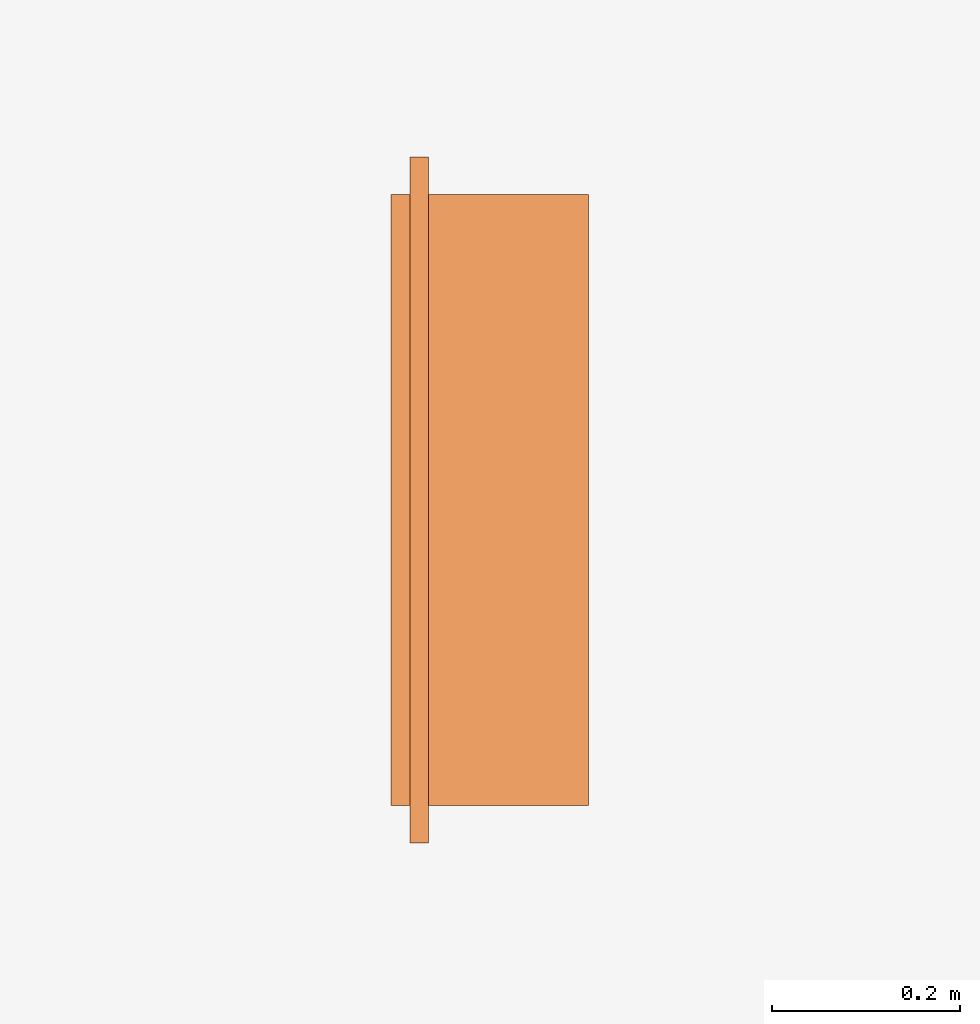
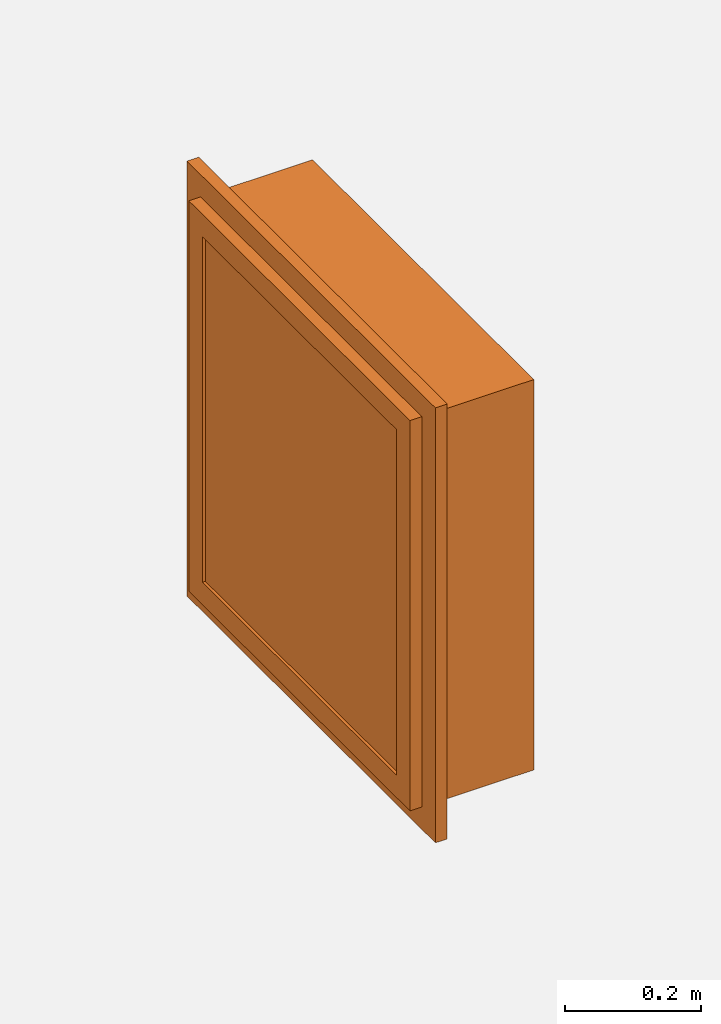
# One storey, part 2 of 2: 1 proxy.
"""IFC2X3 building model written with IfcOpenShell, lengths in millimetres."""

from ifc_helpers import new_model, entity, si_unit, converted_unit, derived_unit, money_unit, direction, frame, origin_with_axes, place, context, subcontext, project, spatial, faceted_brep, type_object, element, save


model = new_model("IFC2X3")

# Units and contexts
model_context = context("Model", 3, precision=0.01, world=origin_with_axes(), true_north=direction((0.0, 1.0)))
body_context = subcontext(model_context, "Body", "Model", "MODEL_VIEW")
ifc_project = project(units=[si_unit("LENGTHUNIT", "METRE", prefix="MILLI"), si_unit("AREAUNIT", "SQUARE_METRE"), si_unit("VOLUMEUNIT", "CUBIC_METRE"), converted_unit("PLANEANGLEUNIT", "DEGREE", entity("IfcPlaneAngleMeasure", 0.0174532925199), si_unit("PLANEANGLEUNIT", "RADIAN"), dimensions=[0, 0, 0, 0, 0, 0, 0]), money_unit("USD"), converted_unit("TIMEUNIT", "Year", entity("IfcTimeMeasure", 31556926.0), si_unit("TIMEUNIT", "SECOND"), dimensions=[0, 0, 1, 0, 0, 0, 0]), si_unit("MASSUNIT", "GRAM", prefix="KILO"), si_unit("THERMODYNAMICTEMPERATUREUNIT", "DEGREE_CELSIUS"), si_unit("LUMINOUSINTENSITYUNIT", "LUMEN"), si_unit("ENERGYUNIT", "JOULE", prefix="MEGA"), derived_unit("THERMALCONDUCTANCEUNIT", [(si_unit("POWERUNIT", "WATT"), 1), (si_unit("LENGTHUNIT", "METRE"), -1), (si_unit("THERMODYNAMICTEMPERATUREUNIT", "KELVIN"), -1)]), derived_unit("SPECIFICHEATCAPACITYUNIT", [(si_unit("ENERGYUNIT", "JOULE"), 1), (si_unit("MASSUNIT", "GRAM", prefix="KILO"), -1), (si_unit("THERMODYNAMICTEMPERATUREUNIT", "KELVIN"), -1)]), derived_unit("MASSDENSITYUNIT", [(si_unit("MASSUNIT", "GRAM", prefix="KILO"), 1), (si_unit("VOLUMEUNIT", "CUBIC_METRE"), -1)])], contexts=[model_context])

# Site, building, storey
site_placement = place(None, frame((9669.71692459, 4224.13032188, 0.0), z_axis=(0.0, 0.0, 1.0), x_axis=(1.0, 0.0, 0.0)))
site = spatial("IfcSite", under=ifc_project, at=site_placement, Name="Exteriér", CompositionType="ELEMENT")
building_placement = place(site_placement, origin_with_axes())
building = spatial("IfcBuilding", under=site, at=building_placement, Name="Budova", CompositionType="ELEMENT")
storey_placement = place(building_placement, frame((0.0, 0.0, -3100.0), z_axis=(0.0, 0.0, 1.0), x_axis=(1.0, 0.0, 0.0)))
storey = spatial("IfcBuildingStorey", under=building, at=storey_placement, Name="1.PP", CompositionType="ELEMENT", Elevation=-3100.0)

# Proxy
building_element_proxy_type = type_object("IfcBuildingElementProxyType", Name="Nástěnný hydrant 25", PredefinedType="NOTDEFINED")
proxy_placement = place(storey_placement, frame((7336.48806068, 12589.164995, 1100.0), z_axis=(0.0, 0.0, 1.0), x_axis=(0.0, -1.0, 0.0)))
element("IfcBuildingElementProxy", 1, at=proxy_placement, inside=storey, type_object=building_element_proxy_type, Name="Ž01", context=body_context, shape_type="Brep", body=[
    faceted_brep([(0.0, 40.0, 0.0), (0.0, 20.0, 0.0), (-730.0, 20.0, 0.0), (-730.0, 40.0, 0.0), (0.0, 40.0, 780.0), (0.0, 20.0, 780.0), (-730.0, 20.0, 780.0), (-60.0, 20.0, 60.0), (-670.0, 20.0, 60.0), (-670.0, 20.0, 720.0), (-60.0, 20.0, 720.0), (-730.0, 40.0, 780.0), (-60.0, 40.0, 60.0), (-60.0, 40.0, 720.0), (-670.0, 40.0, 720.0), (-670.0, 40.0, 60.0)], [[[0, 1, 2, 3]], [[4, 5, 1, 0]], [[1, 5, 6, 2], [7, 8, 9, 10]], [[3, 2, 6, 11]], [[0, 3, 11, 4], [12, 13, 14, 15]], [[11, 6, 5, 4]], [[15, 8, 7, 12]], [[14, 9, 8, 15]], [[13, 10, 9, 14]], [[12, 7, 10, 13]]]),
    faceted_brep([(-40.0, 20.0, 40.0), (-40.0, 0.0, 40.0), (-690.0, 0.0, 40.0), (-690.0, 20.0, 40.0), (-40.0, 20.0, 740.0), (-40.0, 0.0, 740.0), (-690.0, 0.0, 740.0), (-80.0, 0.0, 80.0), (-650.0, 0.0, 80.0), (-650.0, 0.0, 700.0), (-80.0, 0.0, 700.0), (-690.0, 20.0, 740.0), (-80.0, 20.0, 80.0), (-80.0, 20.0, 700.0), (-650.0, 20.0, 700.0), (-650.0, 20.0, 80.0)], [[[0, 1, 2, 3]], [[4, 5, 1, 0]], [[1, 5, 6, 2], [7, 8, 9, 10]], [[3, 2, 6, 11]], [[0, 3, 11, 4], [12, 13, 14, 15]], [[11, 6, 5, 4]], [[15, 8, 7, 12]], [[14, 9, 8, 15]], [[13, 10, 9, 14]], [[12, 7, 10, 13]]]),
    faceted_brep([(-40.0, 190.0, 40.0), (-40.0, 40.0, 40.0), (-690.0, 40.0, 40.0), (-690.0, 190.0, 40.0), (-40.0, 190.0, 740.0), (-40.0, 40.0, 740.0), (-690.0, 40.0, 740.0), (-60.0, 40.0, 60.0), (-670.0, 40.0, 60.0), (-670.0, 40.0, 720.0), (-60.0, 40.0, 720.0), (-690.0, 190.0, 740.0), (-60.0, 190.0, 60.0), (-60.0, 190.0, 720.0), (-670.0, 190.0, 720.0), (-670.0, 190.0, 60.0)], [[[0, 1, 2, 3]], [[4, 5, 1, 0]], [[1, 5, 6, 2], [7, 8, 9, 10]], [[3, 2, 6, 11]], [[0, 3, 11, 4], [12, 13, 14, 15]], [[11, 6, 5, 4]], [[15, 8, 7, 12]], [[14, 9, 8, 15]], [[13, 10, 9, 14]], [[12, 7, 10, 13]]]),
    faceted_brep([(-40.0, 210.0, 40.0), (-40.0, 190.0, 40.0), (-690.0, 190.0, 40.0), (-690.0, 210.0, 40.0), (-40.0, 210.0, 740.0), (-40.0, 190.0, 740.0), (-690.0, 190.0, 740.0), (-690.0, 210.0, 740.0)], [[[0, 1, 2, 3]], [[4, 5, 1, 0]], [[1, 5, 6, 2]], [[3, 2, 6, 7]], [[0, 3, 7, 4]], [[7, 6, 5, 4]]]),
    faceted_brep([(-80.0, 15.0, 80.0), (-80.0, 5.0, 80.0), (-650.0, 5.0, 80.0), (-650.0, 15.0, 80.0), (-80.0, 15.0, 700.0), (-80.0, 5.0, 700.0), (-650.0, 5.0, 700.0), (-650.0, 15.0, 700.0)], [[[0, 1, 2, 3]], [[4, 5, 1, 0]], [[1, 5, 6, 2]], [[3, 2, 6, 7]], [[0, 3, 7, 4]], [[7, 6, 5, 4]]]),
])

save(model, "model.ifc")
